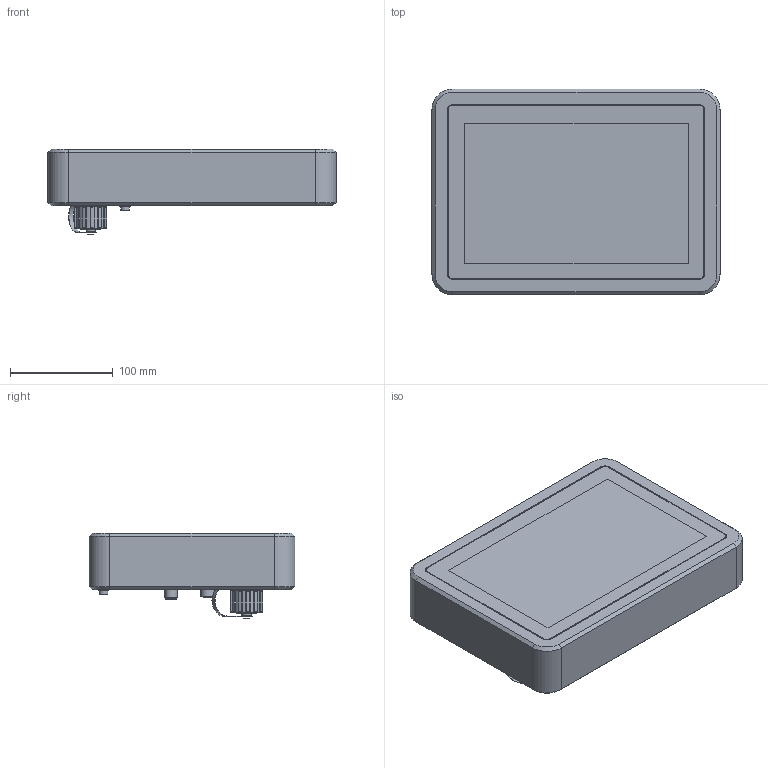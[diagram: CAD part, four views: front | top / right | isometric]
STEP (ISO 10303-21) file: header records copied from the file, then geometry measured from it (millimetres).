
FILE_DESCRIPTION(/* description */ (''),/* implementation_level */ '2;1');
FILE_NAME(/* name */ '778-61992-00_CAD_001_01_ipt.stp',/* time_stamp */ '2026-05-08T10:00:36+02:00',/* author */ ('Blessing'),/* organization */ ('TRsystems GmbH'),/* preprocessor_version */ 'ST-DEVELOPER v20',/* originating_system */ 'Autodesk Inventor 2024',/* authorisation */ '');
FILE_SCHEMA (('CONFIG_CONTROL_DESIGN'));
Products named in the file (1): 778-61992-00_001
Bounding box: 280 x 200 x 83.5 mm (x, y, z)
Volume: 3032742 mm3; surface area: 181147.3 mm2
Topology: 2 solids, 2 shells, 1879 faces, 5044 edges, 3271 vertices
Faces by surface type: plane 1126, cylinder 439, bspline 117, cone 105, torus 82, sphere 10
Full cylindrical faces by diameter (mm): 1.1 x5, 1.2 x3, 1.5 x4, 1.839 x1, 2.05 x4, 2.5 x2, 2.55 x3, 2.8 x2, 4.134 x4, 4.6 x2, 4.7 x2, 5.5 x1, 6.1 x1, 8.5 x1, 9 x1, 10 x1, 10.4 x1, 10.75 x1, 12 x2, 19 x1, 22 x1, 22.5 x1, 23 x2, 24.52 x1, 24.9 x1, 28 x1, 30 x2
Entity records: 75031 total; most frequent: CARTESIAN_POINT 26993, ORIENTED_EDGE 10070, DIRECTION 9187, EDGE_CURVE 5035, LINE 3373, VECTOR 3373, VERTEX_POINT 3271, AXIS2_PLACEMENT_3D 2907
